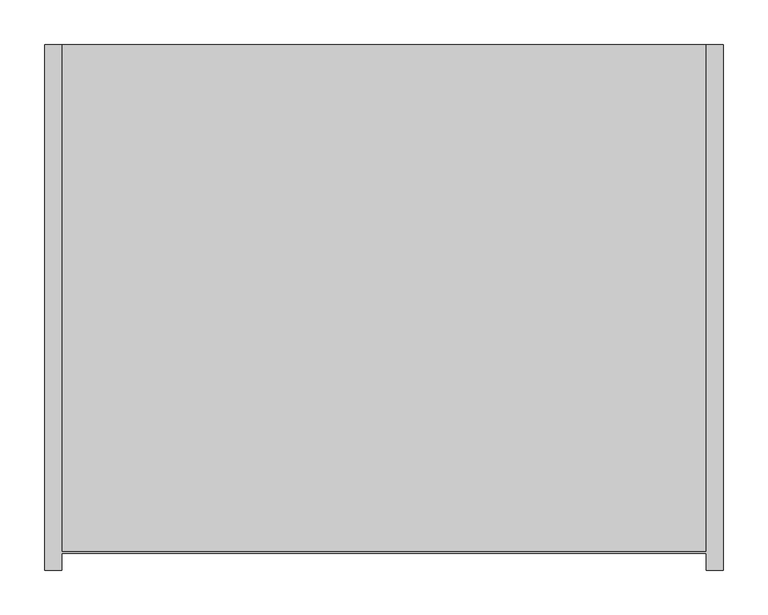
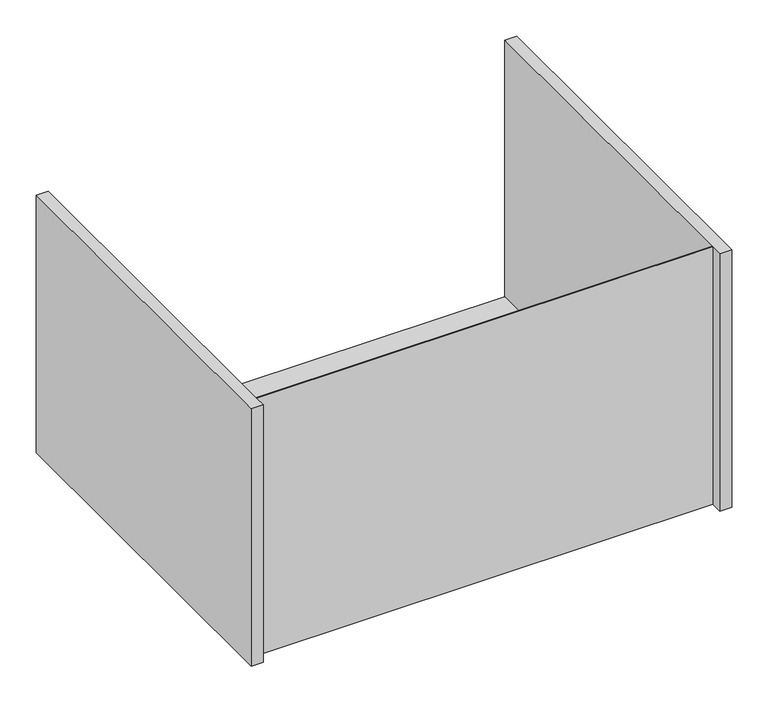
"""IFC4 building model written with IfcOpenShell, lengths in millimetres: furniture geometry, HermanMiller_CoStruc_C2512_SinkModule : 18H x 24D x 30W."""

from ifc_helpers import new_model, si_unit, origin, place, context, project, spatial, faceted_brep, source, transform, mapped, element, save


def furniture_3ba0fd14(model_context):
    return source(origin(), model_context, "Body", "Brep", [
        faceted_brep([(361.95, -401.6375, 882.65), (-361.95, -401.6375, 882.65), (-361.95, 168.275, 882.65), (-381.0, 168.275, 882.65), (-381.0, -422.275, 882.65), (-361.95, -422.275, 882.65), (-361.95, -403.225, 882.65), (361.95, -403.225, 882.65), (361.95, -422.275, 882.65), (381.0, -422.275, 882.65), (381.0, 168.275, 882.65), (361.95, 168.275, 882.65), (-361.95, -403.225, 450.85), (361.95, -403.225, 450.85), (-361.95, -422.275, 450.85), (-381.0, -422.275, 450.85), (-381.0, 168.275, 450.85), (381.0, 168.275, 450.85), (381.0, -422.275, 450.85), (361.95, -422.275, 450.85), (-361.95, 168.275, 452.4375), (361.95, 168.275, 452.4375), (-361.95, -401.6375, 452.4375), (361.95, -401.6375, 452.4375)], [[[0, 1, 2, 3, 4, 5, 6, 7, 8, 9, 10, 11]], [[7, 6, 12, 13]], [[13, 12, 14, 15, 16, 17, 18, 19]], [[17, 16, 3, 2, 20, 21, 11, 10]], [[21, 20, 22, 23]], [[1, 0, 23, 22]], [[0, 11, 21, 23]], [[19, 8, 7, 13]], [[9, 8, 19, 18]], [[10, 9, 18, 17]], [[2, 1, 22, 20]], [[5, 14, 12, 6]], [[4, 3, 16, 15]], [[5, 4, 15, 14]]]),
    ])


if __name__ == "__main__":
    model = new_model("IFC4")
    model_context = context("Model", 3, world=origin())
    ifc_project = project(units=[si_unit("LENGTHUNIT", "METRE", prefix="MILLI")], contexts=[model_context])
    site = spatial("IfcSite", under=ifc_project)
    building = spatial("IfcBuilding", under=site)
    placement = place(None, origin())
    furniture_shape = furniture_3ba0fd14(model_context)
    element("IfcFurniture", 1, ObjectType="HermanMiller_CoStruc_C2512_SinkModule : 18H x 24D x 30W", at=placement, inside=building, context=model_context, shape_type="MappedRepresentation", body=[
        mapped(furniture_shape, transform((0.0, 0.0, 0.0), x_axis=(1.0, 0.0, 0.0), y_axis=(0.0, 1.0, 0.0), z_axis=(0.0, 0.0, 1.0))),
    ])
    save(model, "model.ifc")
